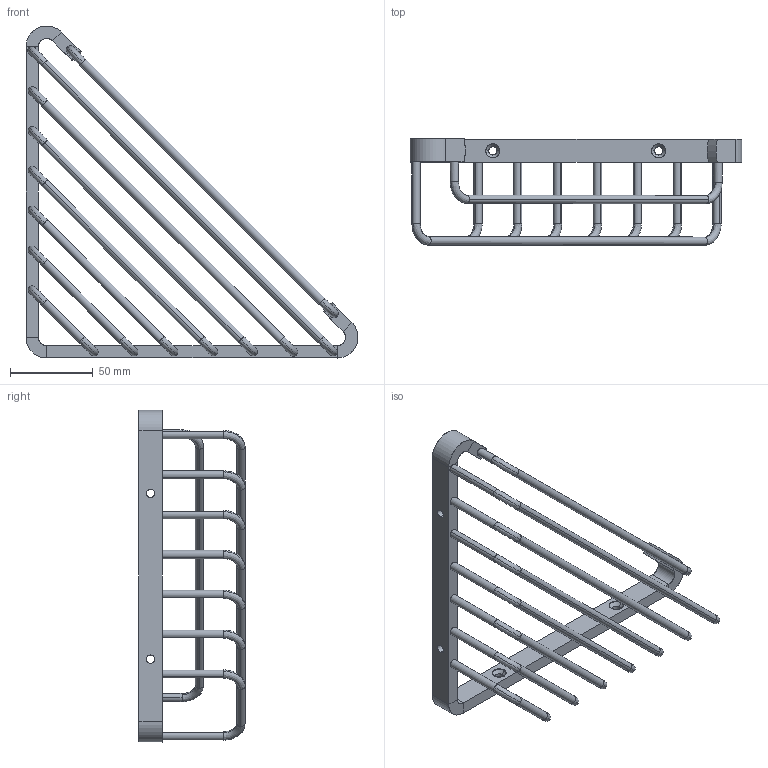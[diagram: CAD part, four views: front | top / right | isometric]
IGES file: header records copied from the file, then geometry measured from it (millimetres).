
Start section: SolidWorks IGES file using analytic representation for surfaces
Global section: file name: G:\Projects\New project\For Marketing\IGS\IGS\2016-3-18\2380150VW.IGS; native system: SolidWorks 2010; preprocessor: SolidWorks 2010; author: linda; date: 160315.105810; units: millimetre
Bounding box: 200.32 x 64 x 200.32 mm (x, y, z)
Surface area: 49929.3 mm2 (no closed solid volume)
Topology: 0 solids, 0 shells, 135 faces, 844 edges, 844 vertices
Faces by surface type: revolution 81, bspline 54
